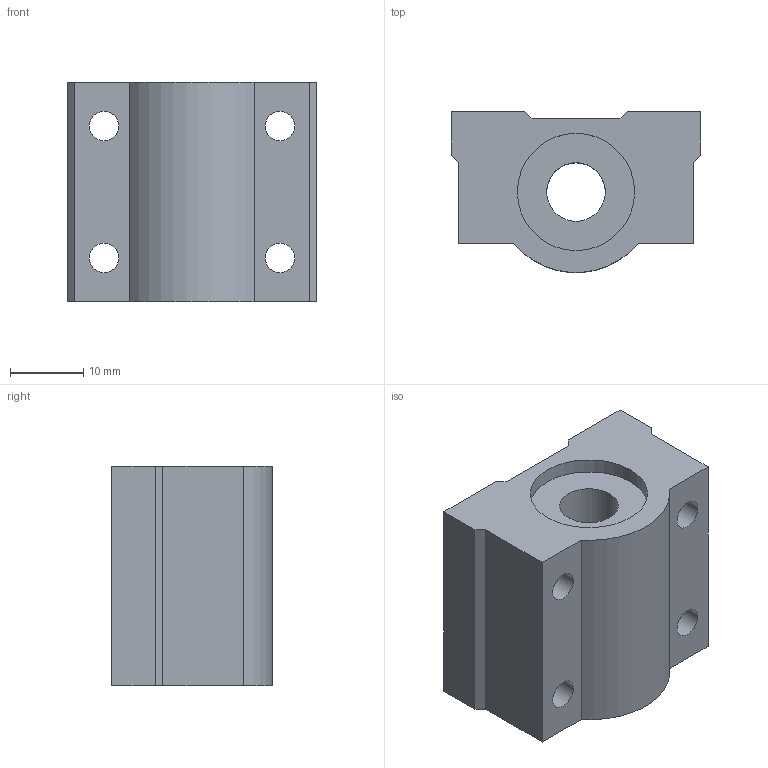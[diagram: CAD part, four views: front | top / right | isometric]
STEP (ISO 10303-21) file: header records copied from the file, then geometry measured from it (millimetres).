
FILE_DESCRIPTION((''),'2;1');
FILE_NAME('C:\Documents and Settings\ｿﾀﾀ蠑ｷ1\ｹﾙﾅﾁ ﾈｭｸ饅\ｺﾎﾇｰﾆﾄﾀﾏ\ﾁｦﾇｰ\SCE_UU\SCE8UU.stp','2005-06-22T15:38:49',('ｿﾀﾀ蠑ｷ1'),(''),'Autodesk Inventor 9','Autodesk Inventor 9','');
FILE_SCHEMA(('AUTOMOTIVE_DESIGN { 1 0 10303 214 1 1 1 1 }'));
Length unit declared in the file: millimetre
Products named in the file (1): SCE__UU
Bounding box: 34 x 21.96 x 30 mm (x, y, z)
Volume: 15680.4 mm3; surface area: 5986.6 mm2
Topology: 1 solids, 1 shells, 32 faces, 84 edges, 56 vertices
Faces by surface type: plane 17, bspline 8, cylinder 7
Entity records: 1145 total; most frequent: CARTESIAN_POINT 309, ORIENTED_EDGE 168, DIRECTION 164, EDGE_CURVE 84, VERTEX_POINT 56, AXIS2_PLACEMENT_3D 55, VECTOR 54, LINE 54
